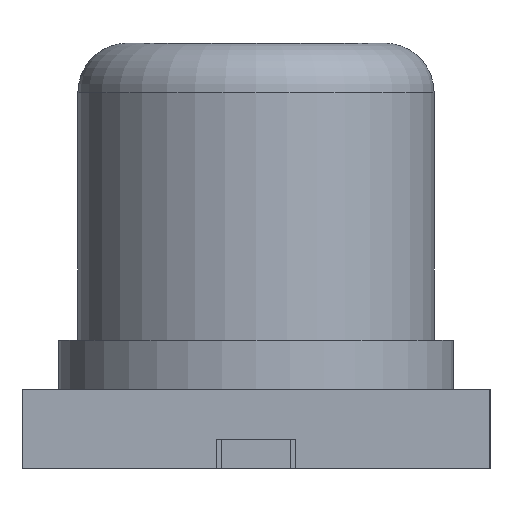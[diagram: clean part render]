
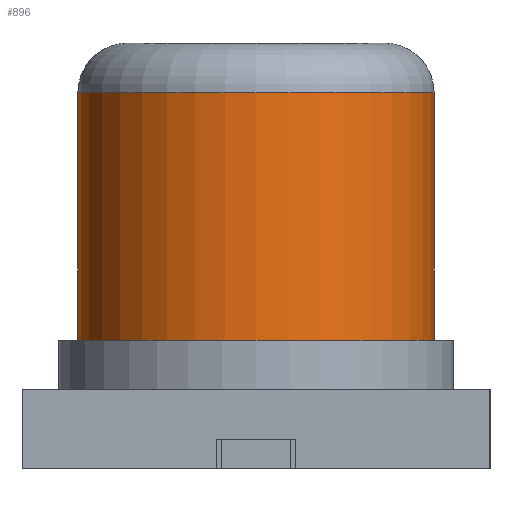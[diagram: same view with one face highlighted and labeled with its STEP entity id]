
A CAD part, left-side view. The second image highlights one B-rep face of the part: STEP entity #896.
In plain terms, the highlighted cylindrical face has radius 1.8 mm (diameter 3.6 mm), a partial arc.
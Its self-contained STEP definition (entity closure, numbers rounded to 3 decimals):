
#581 = CARTESIAN_POINT ( 'NONE',  ( -3.1, -1.8, 1.3 ) ) ;
#582 = VERTEX_POINT ( 'NONE', #581 ) ;
#589 = CARTESIAN_POINT ( 'NONE',  ( -3.1, 1.8, 1.3 ) ) ;
#590 = VERTEX_POINT ( 'NONE', #589 ) ;
#591 = CARTESIAN_POINT ( 'NONE',  ( -3.1, 0., 1.3 ) ) ;
#592 = DIRECTION ( 'NONE',  ( 0., 0., 1. ) ) ;
#593 = DIRECTION ( 'NONE',  ( 0., 1., 0. ) ) ;
#594 = AXIS2_PLACEMENT_3D ( 'NONE', #591, #592, #593 ) ;
#595 = CIRCLE ( 'NONE', #594, 1.8) ;
#596 = EDGE_CURVE ( 'NONE', #590, #582, #595, .T. ) ;
#848 = CARTESIAN_POINT ( 'NONE',  ( -3.1, 1.8, 3.8 ) ) ;
#849 = VERTEX_POINT ( 'NONE', #848 ) ;
#850 = CARTESIAN_POINT ( 'NONE',  ( -3.1, 1.8, 4.3 ) ) ;
#851 = DIRECTION ( 'NONE',  ( 0., 0., -1. ) ) ;
#852 = VECTOR ( 'NONE', #851, 1000. ) ;
#853 = LINE ( 'NONE', #850, #852 ) ;
#854 = EDGE_CURVE ( 'NONE', #849, #590, #853, .T. ) ;
#872 = CARTESIAN_POINT ( 'NONE',  ( -3.1, -1.8, 3.8 ) ) ;
#873 = VERTEX_POINT ( 'NONE', #872 ) ;
#874 = CARTESIAN_POINT ( 'NONE',  ( -3.1, -1.8, 4.3 ) ) ;
#875 = DIRECTION ( 'NONE',  ( 0., 0., -1. ) ) ;
#876 = VECTOR ( 'NONE', #875, 1000. ) ;
#877 = LINE ( 'NONE', #874, #876 ) ;
#878 = EDGE_CURVE ( 'NONE', #873, #582, #877, .T. ) ;
#879 = ORIENTED_EDGE ( 'NONE', *, *, #878, .F. ) ;
#880 = CARTESIAN_POINT ( 'NONE',  ( -3.1, 0., 3.8 ) ) ;
#881 = DIRECTION ( 'NONE',  ( 0., 0., -1. ) ) ;
#882 = DIRECTION ( 'NONE',  ( 0., 1., 0. ) ) ;
#883 = AXIS2_PLACEMENT_3D ( 'NONE', #880, #881, #882 ) ;
#884 = CIRCLE ( 'NONE', #883, 1.8) ;
#885 = EDGE_CURVE ( 'NONE', #873, #849, #884, .T. ) ;
#886 = ORIENTED_EDGE ( 'NONE', *, *, #885, .T. ) ;
#887 = ORIENTED_EDGE ( 'NONE', *, *, #854, .T. ) ;
#888 = ORIENTED_EDGE ( 'NONE', *, *, #596, .T. ) ;
#889 = EDGE_LOOP ( 'NONE', ( #879, #886, #887, #888 ) ) ;
#890 = FACE_OUTER_BOUND ( 'NONE', #889, .T. ) ;
#891 = CARTESIAN_POINT ( 'NONE',  ( -3.1, 0., 4.3 ) ) ;
#892 = DIRECTION ( 'NONE',  ( 0., 0., -1. ) ) ;
#893 = DIRECTION ( 'NONE',  ( 0., 1., 0. ) ) ;
#894 = AXIS2_PLACEMENT_3D ( 'NONE', #891, #892, #893 ) ;
#895 = CYLINDRICAL_SURFACE ( 'NONE', #894, 1.8) ;
#896 = ADVANCED_FACE ( 'NONE', ( #890 ), #895, .T. ) ;
